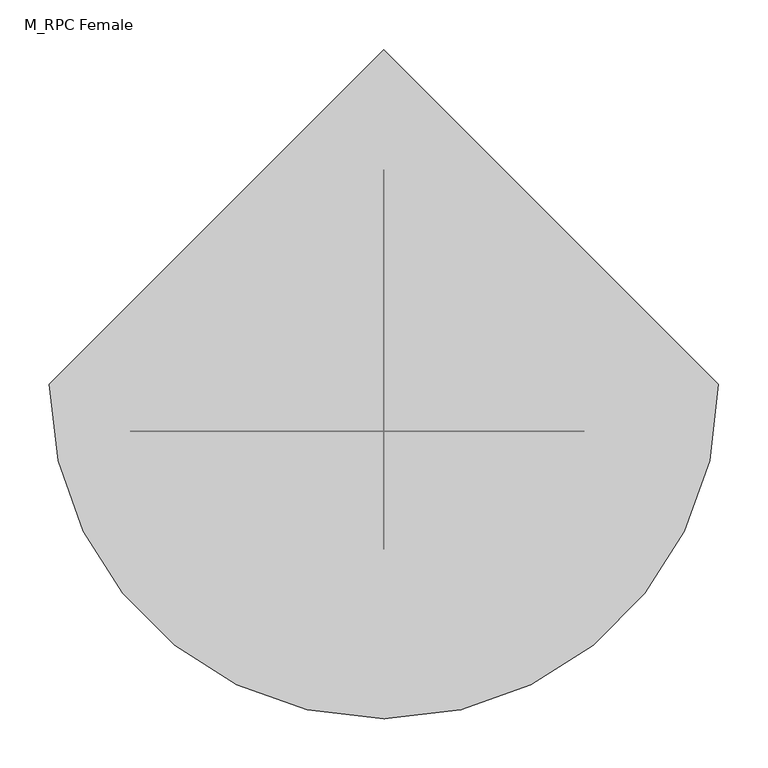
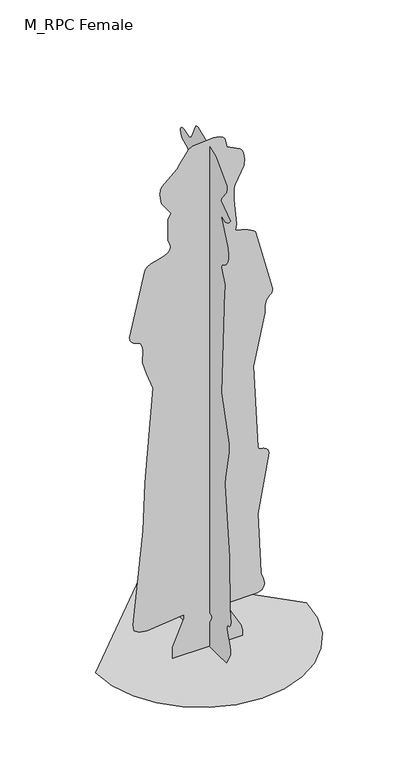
"""IFC4 building model written with IfcOpenShell, lengths in millimetres: proxy geometry, M_RPC Female : Tina."""

from ifc_helpers import new_model, si_unit, origin, place, context, project, spatial, triangles, source, transform, mapped, element, save


def m_rpc_female_2c6db5d7(model_context):
    return source(origin(), model_context, "Body", "Tessellation", [
        triangles([(-118.6025444, -47.634765, 38.0857272), (-82.4821111, -47.634765, 123.5965165), (-82.4078787, -47.634765, 135.8076988), (-201.8743057, -47.634765, 123.6874448), (-226.8998131, -47.634765, 127.3925602), (-242.8003324, -47.634765, 138.1061141), (-245.9830414, -47.634765, 157.9873406), (-214.4622183, -47.634765, 467.6615707), (-208.2591994, -47.634765, 628.8000635), (-182.2157855, -47.634765, 942.5941366), (-202.3818692, -47.634765, 998.3099945), (-215.4857024, -47.634765, 1039.6304375), (-215.8216012, -47.634765, 1048.3155905), (-215.4216801, -47.634765, 1056.8912298), (-214.7396723, -47.634765, 1065.4279181), (-214.2302376, -47.634765, 1073.9989792), (-214.344384, -47.634765, 1082.6748304), (-215.5358083, -47.634765, 1091.526107), (-218.2582621, -47.634765, 1100.6251156), (-222.7725032, -47.634765, 1107.0758846), (-229.4311266, -47.634765, 1111.2523739), (-237.1540564, -47.634765, 1114.3376507), (-244.8602902, -47.634765, 1117.5147823), (-251.4688076, -47.634765, 1121.9687256), (-255.9004593, -47.634765, 1128.8824751), (-257.07239, -47.634765, 1139.4392435), (-207.167987, -47.634765, 1352.9188728), (-199.4589735, -47.634765, 1360.8829216), (-187.4853403, -47.634765, 1366.7175945), (-173.049975, -47.634765, 1371.2968208), (-157.9567102, -47.634765, 1375.4908962), (-144.0094239, -47.634765, 1380.17593), (-133.0119302, -47.634765, 1386.22309), (-126.7671533, -47.634765, 1394.5054333), (-125.4319059, -47.634765, 1401.2810371), (-127.4129714, -47.634765, 1413.4291328), (-129.6649869, -47.634765, 1418.6902943), (-132.0487713, -47.634765, 1423.3344875), (-134.0326255, -47.634765, 1427.3059021), (-132.6945894, -47.634765, 1497.2724163), (-129.1054644, -47.634765, 1508.755291), (-123.9945845, -47.634765, 1516.4939175), (-154.1541807, -47.634765, 1559.4818459), (-159.7587078, -47.634765, 1590.5228291), (-157.2635658, -47.634765, 1607.9860073), (-153.0369887, -47.634765, 1617.2909626), (-104.5875205, -47.634765, 1660.6620071), (-95.4449009, -47.634765, 1675.8833164), (-68.2648058, -47.634765, 1712.8973362), (-54.7861045, -47.634765, 1720.8067371), (13.7932601, -47.634765, 1725.7023685), (32.0822033, -47.634765, 1722.1355804), (43.5352969, -47.634765, 1716.6943428), (49.9127646, -47.634765, 1709.5726845), (56.216, -47.634765, 1680.0691074), (98.2527328, -47.634765, 1658.6651814), (104.3555398, -47.634765, 1651.6029671), (108.8920543, -47.634765, 1641.2550522), (113.2272094, -47.634765, 1617.3345646), (111.7880349, -47.634765, 1597.1953869), (82.8124507, -47.634765, 1541.3877468), (78.3956327, -47.634765, 1530.3568794), (78.2211884, -47.634765, 1494.4099457), (81.150579, -47.634765, 1473.5960999), (87.0705937, -47.634765, 1407.3959255), (83.9407793, -47.634765, 1386.1887897), (93.3691828, -47.634765, 1383.7566708), (103.6670371, -47.634765, 1380.9952114), (114.2488312, -47.634765, 1377.7949707), (124.5281275, -47.634765, 1374.0498505), (133.9212769, -47.634765, 1369.6507004), (141.8418418, -47.634765, 1364.4915676), (147.7071088, -47.634765, 1358.4638832), (203.1566584, -47.634765, 1147.7569771), (202.6491131, -47.634765, 1140.2075106), (200.5669001, -47.634765, 1134.3942026), (197.3999604, -47.634765, 1129.8335798), (193.6428859, -47.634765, 1126.0450029), (189.7865261, -47.634765, 1122.5449259), (186.3245281, -47.634765, 1118.8537268), (183.7486679, -47.634765, 1114.4870602), (180.7413478, -47.634765, 1104.3033068), (179.3225754, -47.634765, 1093.7019917), (178.983897, -47.634765, 1082.7509159), (179.2130981, -47.634765, 1071.5223862), (142.1619712, -47.634765, 903.7800087), (156.0238885, -47.634765, 623.7615629), (158.5088204, -47.634765, 617.7904884), (163.2568954, -47.634765, 614.8629782), (169.444145, -47.634765, 613.3959166), (176.2447291, -47.634765, 611.8082954), (182.8318997, -47.634765, 608.5170356), (188.3816882, -47.634765, 601.938222), (192.0663833, -47.634765, 590.4916097), (156.0238885, -47.634765, 396.419117), (165.8021253, -47.634765, 192.9107722), (168.1924045, -47.634765, 185.5200351), (170.9798252, -47.634765, 177.5864714), (173.6308262, -47.634765, 169.2956802), (175.6128273, -47.634765, 160.8313531), (176.3904143, -47.634765, 152.3800248), (175.4318972, -47.634765, 144.1254142), (168.3492082, -47.634765, 133.8915821), (154.6422505, -47.634765, 127.770217), (58.9885687, -47.634765, 127.4899925), (56.216, -47.634765, 116.4006349), (101.0707748, -47.634765, 37.0993684), (106.6641652, -47.634765, 18.0541839), (105.8021448, -47.634765, 0.0), (-118.3148985, -47.634765, 0.0), (0.0, -54.5513441, 115.1628107), (0.0, -59.6705765, 112.2278609), (0.0, -61.6061824, 107.3081303), (0.0, -59.5796437, 99.694696), (0.0, -52.8143135, 88.6758555), (0.0, -44.5346454, 79.7485207), (0.0, -38.0848006, 77.4213372), (0.0, -33.3088885, 80.3915501), (0.0, -30.0538092, 87.355451), (0.0, -27.8621052, 119.1732036), (0.0, -145.2092053, 6.8674008), (0.0, -161.5495505, 35.0431372), (0.0, -163.7124817, 41.5440167), (0.0, -165.0514443, 56.4646766), (0.0, -162.6426161, 70.0333842), (0.0, -147.9891955, 107.0381068), (0.0, -145.6443895, 119.61025), (0.0, -147.0779956, 133.03513), (0.0, -159.447862, 133.9268452), (0.0, -165.7984191, 141.1709707), (0.0, -167.6644207, 152.8365468), (0.0, -161.6822459, 195.066291), (0.0, -158.830803, 370.5000232), (0.0, -134.8528879, 604.4092195), (0.0, -137.4658643, 630.1121201), (0.0, -156.4692829, 724.2422029), (0.0, -156.1306044, 755.5588234), (0.0, -114.2079998, 903.3968199), (0.0, -130.4435004, 1258.6551498), (0.0, -135.0134159, 1270.3429539), (0.0, -134.2636706, 1282.516048), (0.0, -115.8383236, 1329.7490662), (0.0, -116.8219028, 1339.6099468), (0.0, -129.4933313, 1346.1229214), (0.0, -140.4583416, 1355.1049313), (0.0, -148.9050371, 1366.6285011), (0.0, -154.0177792, 1380.7678997), (0.0, -154.9837267, 1397.5936169), (0.0, -150.9900297, 1417.1787586), (0.0, -111.0355099, 1505.4046234), (0.0, -130.1558545, 1498.7367165), (0.0, -138.0615765, 1498.2023014), (0.0, -145.153531, 1499.6349174), (0.0, -151.6479111, 1503.1108681), (0.0, -157.7618639, 1508.7051487), (0.0, -163.7124817, 1516.4939175), (0.0, -111.0355099, 1555.3081181), (0.0, -115.3929384, 1565.6680962), (0.0, -142.5368484, 1601.7709797), (0.0, -145.4541667, 1612.3193184), (0.0, -144.3054269, 1624.619585), (0.0, -83.3116571, 1688.3867683), (0.0, 16.4971648, 1727.2009689), (0.0, 26.1093007, 1726.281403), (0.0, 33.1455786, 1716.0318832), (0.0, 45.9051558, 1684.0155235), (0.0, 54.8352839, 1670.4866982), (0.0, 67.6013561, 1664.1017681), (0.0, 95.590586, 1672.8917839), (0.0, 103.6679636, 1673.2769348), (0.0, 109.6603577, 1670.5980286), (0.0, 113.1910197, 1665.3163742), (0.0, 113.8795224, 1657.8960423), (0.0, 111.3472823, 1648.7970337), (0.0, 105.2166337, 1638.4824017), (0.0, 102.2761155, 1635.772974), (0.0, 74.7192901, 1624.619585), (0.0, 65.764109, 1614.5853138), (0.0, 62.4320132, 1602.0947971), (0.0, 63.3794026, 1588.1744259), (0.0, 83.0360744, 1538.6736683), (0.0, 77.4992848, 1529.7285748), (0.0, 75.4829517, 1476.4151138), (0.0, 71.8251626, 1469.4623405), (0.0, 16.4971648, 1466.5895508), (0.0, 16.4971648, 1366.7806721), (0.0, 18.848468, 1360.1889233), (0.0, 52.5396528, 1327.9666168), (0.0, 105.3623188, 1231.3998367), (0.0, 120.5529977, 982.9309914), (0.0, 166.2104034, 823.3782303), (0.0, 167.4166706, 801.2904797), (0.0, 164.7090597, 783.1908577), (0.0, 144.2061415, 730.9648304), (0.0, 144.0307707, 718.0242685), (0.0, 171.7555409, 645.9402237), (0.0, 186.7996081, 525.8660485), (0.0, 217.1039539, 449.5257228), (0.0, 217.383261, 436.7791171), (0.0, 207.7971092, 424.1438782), (0.0, 134.100363, 404.8249629), (0.0, 105.2157071, 404.7368142), (0.0, 152.8059345, 209.5888784), (0.0, 152.0636106, 186.4488665), (0.0, 141.0132314, 169.2780396), (0.0, 115.8067758, 150.5669088), (0.0, 57.3786606, 128.2991183), (0.0, 49.767084, 127.4899925), (0.0, 46.9945107, 116.4006349), (0.0, 56.6344837, 98.9616466), (0.0, 86.1621735, 72.0469332), (0.0, 157.8305188, 32.1499408), (0.0, 159.4357987, 29.2929295), (0.0, 159.4868312, 24.5244433), (0.0, 158.6368649, 18.64433), (0.0, 157.5345158, 12.4515133), (0.0, 156.8330325, 6.7467738), (0.0, 157.1828476, 2.3299613), (0.0, 159.2363015, 0.0), (0.0, -142.9330542, 0.0), (-339.3494536, 0.0, 0.0), (-330.3784896, -77.7563094, 0.0), (-304.8277963, -149.1629883, 0.0), (-264.7452138, -212.1749488, 0.0), (-212.1749488, -264.7452138, 0.0), (-149.1629883, -304.8277963, 0.0), (-77.7563094, -330.3784896, 0.0), (0.0, -339.3494536, 0.0), (77.7563094, -330.3784896, 0.0), (149.1629883, -304.8277963, 0.0), (212.1749488, -264.7452138, 0.0), (264.7452138, -212.1749488, 0.0), (304.8277963, -149.1629883, 0.0), (330.3784896, -77.7563094, 0.0), (339.3494536, 0.0, 0.0), (0.0, 339.3494536, 0.0)], [[108, 109, 110], [107, 108, 110], [107, 110, 1], [106, 107, 1], [106, 1, 2], [106, 2, 3], [105, 106, 3], [5, 6, 7], [4, 5, 7], [4, 7, 8], [3, 4, 8], [105, 3, 8], [104, 105, 8], [103, 104, 8], [102, 103, 8], [101, 102, 8], [100, 101, 8], [99, 100, 8], [98, 99, 8], [97, 98, 8], [96, 97, 8], [95, 96, 8], [95, 8, 9], [94, 95, 9], [93, 94, 9], [92, 93, 9], [91, 92, 9], [90, 91, 9], [89, 90, 9], [88, 89, 9], [87, 88, 9], [86, 87, 9], [86, 9, 10], [86, 10, 11], [85, 86, 11], [84, 85, 11], [84, 11, 12], [84, 12, 13], [84, 13, 14], [84, 14, 15], [84, 15, 16], [84, 16, 17], [83, 84, 17], [83, 17, 18], [82, 83, 18], [82, 18, 19], [81, 82, 19], [80, 81, 19], [80, 19, 20], [79, 80, 20], [78, 79, 20], [77, 78, 20], [76, 77, 20], [75, 76, 20], [74, 75, 20], [73, 74, 20], [72, 73, 20], [71, 72, 20], [70, 71, 20], [69, 70, 20], [68, 69, 20], [67, 68, 20], [66, 67, 20], [66, 20, 21], [66, 21, 22], [66, 22, 23], [66, 23, 24], [66, 24, 25], [66, 25, 26], [66, 26, 27], [66, 27, 28], [66, 28, 29], [66, 29, 30], [66, 30, 31], [66, 31, 32], [66, 32, 33], [66, 33, 34], [66, 34, 35], [65, 66, 35], [64, 65, 35], [64, 35, 36], [64, 36, 37], [63, 64, 37], [63, 37, 38], [63, 38, 39], [63, 39, 40], [63, 40, 41], [63, 41, 42], [62, 63, 42], [61, 62, 42], [61, 42, 43], [61, 43, 44], [61, 44, 45], [61, 45, 46], [61, 46, 47], [61, 47, 48], [60, 61, 48], [59, 60, 48], [58, 59, 48], [57, 58, 48], [56, 57, 48], [55, 56, 48], [55, 48, 49], [55, 49, 50], [55, 50, 51], [55, 51, 52], [55, 52, 53], [55, 53, 54], [218, 219, 220], [115, 123, 124], [115, 124, 125], [114, 115, 125], [114, 125, 126], [113, 114, 126], [113, 126, 127], [217, 218, 220], [155, 156, 157], [122, 123, 115], [122, 115, 116], [121, 122, 116], [216, 217, 220], [215, 216, 220], [214, 215, 220], [213, 214, 220], [212, 213, 220], [211, 212, 220], [210, 211, 220], [210, 220, 121], [209, 210, 121], [112, 113, 127], [112, 127, 128], [183, 184, 185], [180, 181, 182], [121, 116, 117], [209, 121, 117], [209, 117, 118], [209, 118, 119], [209, 119, 120], [208, 209, 120], [154, 155, 157], [153, 154, 157], [152, 153, 157], [151, 152, 157], [150, 151, 157], [163, 164, 165], [162, 163, 165], [162, 165, 166], [128, 129, 130], [128, 130, 131], [112, 128, 131], [112, 131, 132], [111, 112, 132], [120, 111, 132], [208, 120, 132], [208, 132, 133], [207, 208, 133], [206, 207, 133], [205, 206, 133], [204, 205, 133], [203, 204, 133], [202, 203, 133], [202, 133, 134], [182, 183, 185], [202, 134, 135], [180, 182, 185], [162, 166, 167], [161, 162, 167], [160, 161, 167], [159, 160, 167], [158, 159, 167], [157, 158, 167], [157, 167, 168], [150, 157, 168], [201, 202, 135], [200, 201, 135], [199, 200, 135], [198, 199, 135], [197, 198, 135], [196, 197, 135], [195, 196, 135], [195, 135, 136], [194, 195, 136], [194, 136, 137], [193, 194, 137], [192, 193, 137], [191, 192, 137], [191, 137, 138], [190, 191, 138], [190, 138, 139], [189, 190, 139], [188, 189, 139], [188, 139, 140], [188, 140, 141], [188, 141, 142], [187, 188, 142], [187, 142, 143], [186, 187, 143], [185, 186, 143], [185, 143, 144], [185, 144, 145], [185, 145, 146], [185, 146, 147], [185, 147, 148], [185, 148, 149], [185, 149, 150], [185, 150, 168], [170, 171, 172], [170, 172, 173], [169, 170, 173], [169, 173, 174], [169, 174, 175], [169, 175, 176], [168, 169, 176], [168, 176, 177], [168, 177, 178], [185, 168, 178], [185, 178, 179], [180, 185, 179], [235, 236, 221], [234, 235, 221], [234, 221, 222], [233, 234, 222], [233, 222, 223], [233, 223, 224], [232, 233, 224], [231, 232, 224], [231, 224, 225], [231, 225, 226], [231, 226, 227], [231, 227, 228], [231, 228, 229], [231, 229, 230]], closed=False),
    ])


if __name__ == "__main__":
    model = new_model("IFC4")
    model_context = context("Model", 3, world=origin())
    ifc_project = project(units=[si_unit("LENGTHUNIT", "METRE", prefix="MILLI")], contexts=[model_context])
    site = spatial("IfcSite", under=ifc_project)
    building = spatial("IfcBuilding", under=site)
    placement = place(None, origin())
    m_rpc_female_shape = m_rpc_female_2c6db5d7(model_context)
    element("IfcBuildingElementProxy", 1, Name="M_RPC Female : Tina", ObjectType="M_RPC Female : Tina", at=placement, inside=building, context=model_context, shape_type="MappedRepresentation", body=[
        mapped(m_rpc_female_shape, transform((0.0, 0.0, 0.0), x_axis=(1.0, 0.0, 0.0), y_axis=(0.0, 1.0, 0.0), z_axis=(0.0, 0.0, 1.0))),
    ])
    save(model, "model.ifc")
